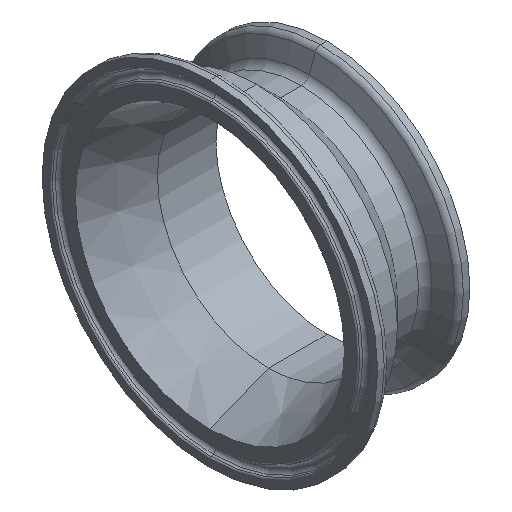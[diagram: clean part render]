
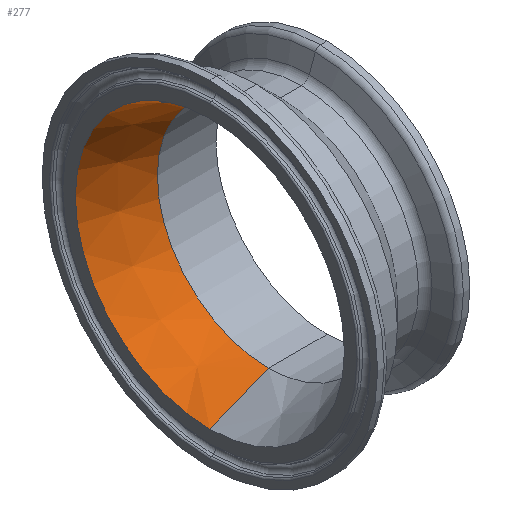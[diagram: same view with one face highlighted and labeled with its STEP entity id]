
A CAD part, isometric view. The second image highlights one B-rep face of the part: STEP entity #277.
In plain terms, the highlighted conical face has half-angle 21.801 degrees and reference radius 36.449 mm.
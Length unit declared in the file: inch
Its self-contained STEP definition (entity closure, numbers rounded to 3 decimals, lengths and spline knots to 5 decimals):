
#61 = VERTEX_POINT ( 'NONE', #891 ) ;
#87 = EDGE_CURVE ( 'NONE', #573, #61, #663, .T. ) ;
#89 = CONICAL_SURFACE ( 'NONE', #1230, 1.435, 0.381 ) ;
#123 = EDGE_CURVE ( 'NONE', #1042, #486, #683, .T. ) ;
#125 = CARTESIAN_POINT ( 'NONE',  ( 0.625, 0., 0. ) ) ;
#237 = DIRECTION ( 'NONE',  ( -1., 0., 0. ) ) ;
#264 = CARTESIAN_POINT ( 'NONE',  ( 0., 0., 0. ) ) ;
#277 = ADVANCED_FACE ( 'NONE', ( #1156 ), #89, .F. ) ;
#307 = EDGE_CURVE ( 'NONE', #486, #61, #626, .T. ) ;
#310 = LINE ( 'NONE', #1220, #518 ) ;
#440 = VECTOR ( 'NONE', #642, 39.37008 ) ;
#486 = VERTEX_POINT ( 'NONE', #1228 ) ;
#496 = CARTESIAN_POINT ( 'NONE',  ( 0.625, 0., 1.185 ) ) ;
#518 = VECTOR ( 'NONE', #713, 39.37008 ) ;
#573 = VERTEX_POINT ( 'NONE', #803 ) ;
#611 = CARTESIAN_POINT ( 'NONE',  ( 0., 0., 0. ) ) ;
#613 = EDGE_CURVE ( 'NONE', #1042, #573, #310, .T. ) ;
#626 = LINE ( 'NONE', #1035, #440 ) ;
#642 = DIRECTION ( 'NONE',  ( -0.928, 0., -0.371 ) ) ;
#656 = ORIENTED_EDGE ( 'NONE', *, *, #87, .T. ) ;
#663 = CIRCLE ( 'NONE', #1085, 1.435 ) ;
#683 = CIRCLE ( 'NONE', #1166, 1.185 ) ;
#712 = DIRECTION ( 'NONE',  ( -1., 0., 0. ) ) ;
#713 = DIRECTION ( 'NONE',  ( -0.928, 0., 0.371 ) ) ;
#757 = ORIENTED_EDGE ( 'NONE', *, *, #123, .F. ) ;
#803 = CARTESIAN_POINT ( 'NONE',  ( 0., 0., 1.435 ) ) ;
#851 = ORIENTED_EDGE ( 'NONE', *, *, #613, .T. ) ;
#891 = CARTESIAN_POINT ( 'NONE',  ( 0., 0., -1.435 ) ) ;
#952 = EDGE_LOOP ( 'NONE', ( #1148, #757, #851, #656 ) ) ;
#989 = DIRECTION ( 'NONE',  ( 0., 0., 1. ) ) ;
#1035 = CARTESIAN_POINT ( 'NONE',  ( 0., 0., -1.435 ) ) ;
#1042 = VERTEX_POINT ( 'NONE', #496 ) ;
#1085 = AXIS2_PLACEMENT_3D ( 'NONE', #611, #712, #1224 ) ;
#1112 = DIRECTION ( 'NONE',  ( -1., 0., 0. ) ) ;
#1119 = DIRECTION ( 'NONE',  ( 0., 0., 1. ) ) ;
#1148 = ORIENTED_EDGE ( 'NONE', *, *, #307, .F. ) ;
#1156 = FACE_OUTER_BOUND ( 'NONE', #952, .T. ) ;
#1166 = AXIS2_PLACEMENT_3D ( 'NONE', #125, #237, #1119 ) ;
#1220 = CARTESIAN_POINT ( 'NONE',  ( 0., 0., 1.435 ) ) ;
#1224 = DIRECTION ( 'NONE',  ( 0., 0., 1. ) ) ;
#1228 = CARTESIAN_POINT ( 'NONE',  ( 0.625, 0., -1.185 ) ) ;
#1230 = AXIS2_PLACEMENT_3D ( 'NONE', #264, #1112, #989 ) ;
